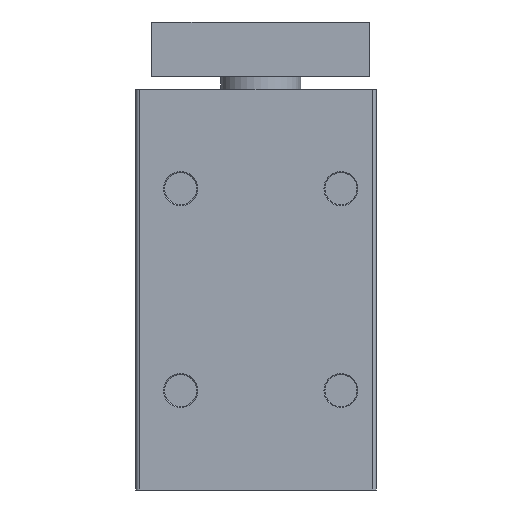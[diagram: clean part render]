
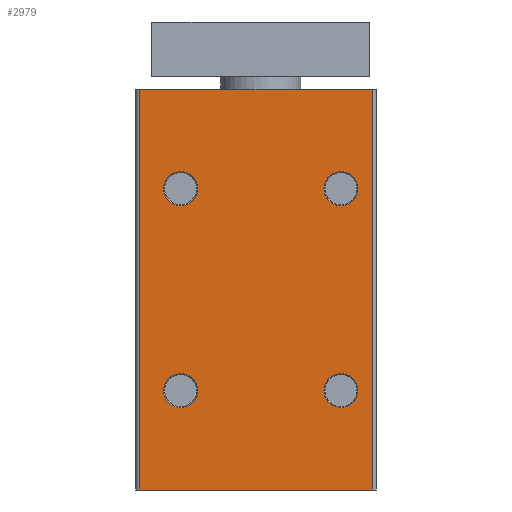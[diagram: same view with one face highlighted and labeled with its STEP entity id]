
A CAD part, front view. The second image highlights one B-rep face of the part: STEP entity #2979.
In plain terms, the highlighted planar face has unit normal (0, -1, 0).
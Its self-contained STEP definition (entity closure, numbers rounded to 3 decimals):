
#1375=CARTESIAN_POINT('',(34.8,-80.0,-129.0));
#1376=VERTEX_POINT('',#1375);
#1384=CARTESIAN_POINT('',(-37.8,-80.0,-129.0));
#1385=VERTEX_POINT('',#1384);
#1386=CARTESIAN_POINT('',(-37.8,-80.0,-129.0));
#1387=DIRECTION('',(1.0,0.0,0.0));
#1388=VECTOR('',#1387,72.6);
#1389=LINE('',#1386,#1388);
#1390=EDGE_CURVE('',#1385,#1376,#1389,.T.);
#1934=CARTESIAN_POINT('',(-37.8,-80.0,-4.));
#1935=VERTEX_POINT('',#1934);
#1943=CARTESIAN_POINT('',(34.8,-80.0,-4.));
#1944=VERTEX_POINT('',#1943);
#1945=CARTESIAN_POINT('',(34.8,-80.0,-4.));
#1946=DIRECTION('',(-1.0,0.0,0.0));
#1947=VECTOR('',#1946,72.6);
#1948=LINE('',#1945,#1947);
#1949=EDGE_CURVE('',#1944,#1935,#1948,.T.);
#2910=CARTESIAN_POINT('',(-19.7,-80.0,-35.0));
#2911=VERTEX_POINT('',#2910);
#2912=CARTESIAN_POINT('',(-25.,-80.0,-35.0));
#2913=DIRECTION('',(0.0,-1.0,0.0));
#2914=DIRECTION('',(-1.0,0.0,0.0));
#2915=AXIS2_PLACEMENT_3D('',#2912,#2913,#2914);
#2916=CIRCLE('',#2915,5.3);
#2917=EDGE_CURVE('',#2911,#2911,#2916,.T.);
#2922=CARTESIAN_POINT('',(-37.8,-80.0,-4.));
#2923=DIRECTION('',(0.0,-1.0,0.0));
#2924=DIRECTION('',(0.0,0.0,-1.0));
#2925=AXIS2_PLACEMENT_3D('',#2922,#2923,#2924);
#2926=PLANE('',#2925);
#2927=ORIENTED_EDGE('',*,*,#1390,.T.);
#2928=CARTESIAN_POINT('',(34.8,-80.0,-4.));
#2929=DIRECTION('',(0.0,0.0,-1.0));
#2930=VECTOR('',#2929,125.0);
#2931=LINE('',#2928,#2930);
#2932=EDGE_CURVE('',#1944,#1376,#2931,.T.);
#2933=ORIENTED_EDGE('',*,*,#2932,.F.);
#2934=ORIENTED_EDGE('',*,*,#1949,.T.);
#2935=CARTESIAN_POINT('',(-37.8,-80.0,-4.));
#2936=DIRECTION('',(0.0,0.0,-1.0));
#2937=VECTOR('',#2936,125.0);
#2938=LINE('',#2935,#2937);
#2939=EDGE_CURVE('',#1935,#1385,#2938,.T.);
#2940=ORIENTED_EDGE('',*,*,#2939,.T.);
#2941=EDGE_LOOP('',(#2927,#2933,#2934,#2940));
#2942=FACE_OUTER_BOUND('',#2941,.T.);
#2943=CARTESIAN_POINT('',(-19.7,-80.0,-98.0));
#2944=VERTEX_POINT('',#2943);
#2945=CARTESIAN_POINT('',(-25.,-80.0,-98.0));
#2946=DIRECTION('',(0.0,-1.0,0.0));
#2947=DIRECTION('',(-1.0,0.0,0.0));
#2948=AXIS2_PLACEMENT_3D('',#2945,#2946,#2947);
#2949=CIRCLE('',#2948,5.3);
#2950=EDGE_CURVE('',#2944,#2944,#2949,.T.);
#2951=ORIENTED_EDGE('',*,*,#2950,.F.);
#2952=EDGE_LOOP('',(#2951));
#2953=FACE_BOUND('',#2952,.T.);
#2954=CARTESIAN_POINT('',(30.3,-80.0,-35.0));
#2955=VERTEX_POINT('',#2954);
#2956=CARTESIAN_POINT('',(25.,-80.0,-35.0));
#2957=DIRECTION('',(0.0,-1.0,0.0));
#2958=DIRECTION('',(-1.0,0.0,0.0));
#2959=AXIS2_PLACEMENT_3D('',#2956,#2957,#2958);
#2960=CIRCLE('',#2959,5.3);
#2961=EDGE_CURVE('',#2955,#2955,#2960,.T.);
#2962=ORIENTED_EDGE('',*,*,#2961,.F.);
#2963=EDGE_LOOP('',(#2962));
#2964=FACE_BOUND('',#2963,.T.);
#2965=CARTESIAN_POINT('',(30.3,-80.0,-98.0));
#2966=VERTEX_POINT('',#2965);
#2967=CARTESIAN_POINT('',(25.,-80.0,-98.0));
#2968=DIRECTION('',(0.0,-1.0,0.0));
#2969=DIRECTION('',(-1.0,0.0,0.0));
#2970=AXIS2_PLACEMENT_3D('',#2967,#2968,#2969);
#2971=CIRCLE('',#2970,5.3);
#2972=EDGE_CURVE('',#2966,#2966,#2971,.T.);
#2973=ORIENTED_EDGE('',*,*,#2972,.F.);
#2974=EDGE_LOOP('',(#2973));
#2975=FACE_BOUND('',#2974,.T.);
#2976=ORIENTED_EDGE('',*,*,#2917,.F.);
#2977=EDGE_LOOP('',(#2976));
#2978=FACE_BOUND('',#2977,.T.);
#2979=ADVANCED_FACE('',(#2942,#2953,#2964,#2975,#2978),#2926,.T.);
